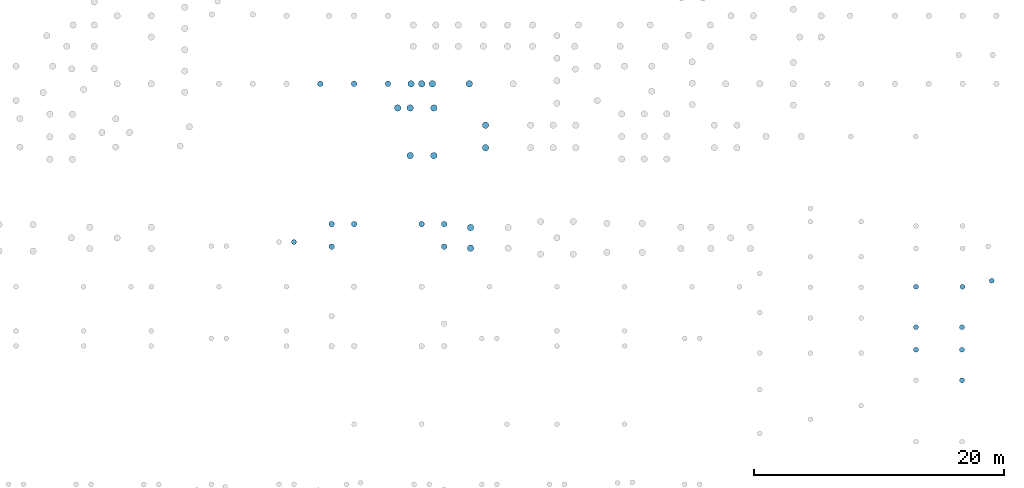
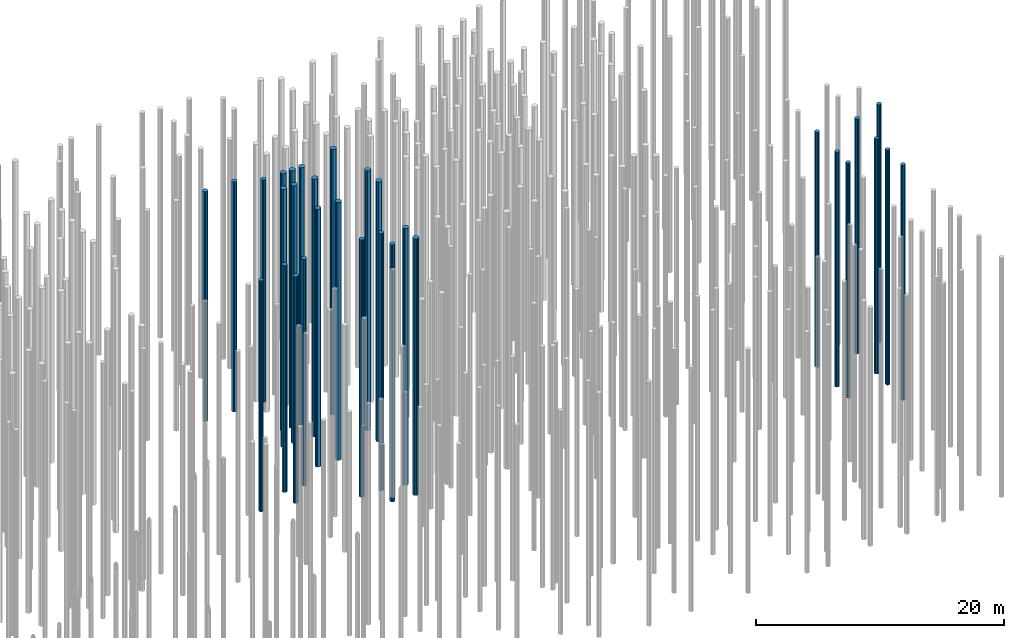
# One storey, part 14 of 20: 31 piles.
"""IFC2X3 building model written with IfcOpenShell, lengths in millimetres."""

from ifc_helpers import new_model, entity, si_unit, converted_unit, derived_unit, direction, frame, origin, place, context, subcontext, project, spatial, polyline, outline, extrude, material, element, save


model = new_model("IFC2X3")

# Units and contexts
model_context = context("Model", 3, precision=0.01, world=origin(), true_north=direction((6.12303176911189e-17, 1.0)))
body_context = subcontext(model_context, "Body", "Model", "MODEL_VIEW")
ifc_project = project(units=[si_unit("LENGTHUNIT", "METRE", prefix="MILLI"), si_unit("AREAUNIT", "SQUARE_METRE"), si_unit("VOLUMEUNIT", "CUBIC_METRE"), converted_unit("PLANEANGLEUNIT", "DEGREE", entity("IfcRatioMeasure", 0.0174532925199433), si_unit("PLANEANGLEUNIT", "RADIAN"), dimensions=[0, 0, 0, 0, 0, 0, 0]), si_unit("MASSUNIT", "GRAM", prefix="KILO"), derived_unit("MASSDENSITYUNIT", [(si_unit("MASSUNIT", "GRAM", prefix="KILO"), 1), (si_unit("LENGTHUNIT", "METRE"), -3)]), si_unit("TIMEUNIT", "SECOND"), si_unit("FREQUENCYUNIT", "HERTZ"), si_unit("THERMODYNAMICTEMPERATUREUNIT", "DEGREE_CELSIUS"), derived_unit("THERMALTRANSMITTANCEUNIT", [(si_unit("MASSUNIT", "GRAM", prefix="KILO"), 1), (si_unit("THERMODYNAMICTEMPERATUREUNIT", "KELVIN"), -1), (si_unit("TIMEUNIT", "SECOND"), -3)]), derived_unit("VOLUMETRICFLOWRATEUNIT", [(si_unit("LENGTHUNIT", "METRE"), 3), (si_unit("TIMEUNIT", "SECOND"), -1)]), si_unit("ELECTRICCURRENTUNIT", "AMPERE"), si_unit("ELECTRICVOLTAGEUNIT", "VOLT"), si_unit("POWERUNIT", "WATT"), si_unit("FORCEUNIT", "NEWTON", prefix="KILO"), si_unit("ILLUMINANCEUNIT", "LUX"), si_unit("LUMINOUSFLUXUNIT", "LUMEN"), si_unit("LUMINOUSINTENSITYUNIT", "CANDELA"), derived_unit("USERDEFINED", [(si_unit("MASSUNIT", "GRAM", prefix="KILO"), -1), (si_unit("LENGTHUNIT", "METRE"), -2), (si_unit("TIMEUNIT", "SECOND"), 3), (si_unit("LUMINOUSFLUXUNIT", "LUMEN"), 1)]), derived_unit("LINEARVELOCITYUNIT", [(si_unit("LENGTHUNIT", "METRE"), 1), (si_unit("TIMEUNIT", "SECOND"), -1)]), si_unit("PRESSUREUNIT", "PASCAL"), derived_unit("USERDEFINED", [(si_unit("LENGTHUNIT", "METRE"), -2), (si_unit("MASSUNIT", "GRAM", prefix="KILO"), 1), (si_unit("TIMEUNIT", "SECOND"), -2)])], contexts=[model_context])

# Site, building, storey
site_placement = place(None, origin())
site = spatial("IfcSite", under=ifc_project, at=site_placement, Name="Default", CompositionType="ELEMENT")
building_placement = place(site_placement, origin())
building = spatial("IfcBuilding", under=site, at=building_placement, Name="niet gebruiken", CompositionType="ELEMENT")
storey_placement = place(building_placement, frame((0.0, 0.0, -4000.0)))
storey = spatial("IfcBuildingStorey", under=building, at=storey_placement, Name="Level t.b.v. palenplan", CompositionType="ELEMENT", Elevation=-4000.0)

# Piles
ifc_material = material(Name="NLRS_f2_beton ihwg")
pile_1_placement = place(storey_placement, origin())
element("IfcPile", 1, at=pile_1_placement, inside=storey, material=ifc_material, Name="NLRS_17.12_SFO_TLB_funderingspaal grondverdringend_gen:Fundex_r460/560", ObjectType="NLRS_17.12_SFO_TLB_funderingspaal grondverdringend_gen:Fundex_r460/560", context=body_context, shape_type="SweptSolid", body=[
    extrude(outline(polyline([(-25.7518295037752, -228.553808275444), (25.7518295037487, -228.553808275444), (122.367377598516, -194.746565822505), (194.746565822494, -122.367377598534), (228.55380827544, -25.7518295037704), (217.093165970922, 75.9641842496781), (162.634559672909, 162.634559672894), (75.9641842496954, 217.093165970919), (25.7518295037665, 228.553808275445), (-25.751829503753, 228.553808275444), (-122.367377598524, 194.746565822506), (-194.746565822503, 122.367377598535), (-228.553808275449, 25.7518295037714), (-217.093165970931, -75.9641842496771), (-162.634559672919, -162.634559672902), (-75.964184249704, -217.093165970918), (-25.7518295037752, -228.553808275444)])), frame((70205.0, 29981.0, -20100.0), z_axis=(0.0, 0.0, 1.0), x_axis=(0.111964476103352, -0.993712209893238, 0.0)), (0.0, 0.0, 1.0), 22320.0),
])
pile_2_placement = place(storey_placement, origin())
element("IfcPile", 2, at=pile_2_placement, inside=storey, material=ifc_material, Name="NLRS_17.12_SFO_TLB_funderingspaal grondverdringend_gen:Fundex_r460/560", ObjectType="NLRS_17.12_SFO_TLB_funderingspaal grondverdringend_gen:Fundex_r460/560", context=body_context, shape_type="SweptSolid", body=[
    extrude(outline(polyline([(-25.7518295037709, -228.553808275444), (25.751829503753, -228.553808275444), (122.36737759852, -194.746565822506), (194.746565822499, -122.367377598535), (228.553808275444, -25.7518295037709), (217.093165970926, 75.9641842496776), (162.634559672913, 162.634559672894), (75.9641842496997, 217.093165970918), (25.7518295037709, 228.553808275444), (-25.7518295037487, 228.553808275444), (-122.36737759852, 194.746565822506), (-194.746565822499, 122.367377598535), (-228.553808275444, 25.7518295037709), (-217.093165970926, -75.9641842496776), (-162.634559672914, -162.634559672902), (-75.9641842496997, -217.093165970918), (-25.7518295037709, -228.553808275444)])), frame((68405.0, 28181.0, -20100.0), z_axis=(0.0, 0.0, 1.0), x_axis=(0.111964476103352, -0.993712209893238, 0.0)), (0.0, 0.0, 1.0), 22320.0),
])
pile_3_placement = place(storey_placement, origin())
element("IfcPile", 3, at=pile_3_placement, inside=storey, material=ifc_material, Name="NLRS_17.12_SFO_TLB_funderingspaal grondverdringend_gen:Fundex_r530/650", ObjectType="NLRS_17.12_SFO_TLB_funderingspaal grondverdringend_gen:Fundex_r530/650", context=body_context, shape_type="SweptSolid", body=[
    extrude(outline(polyline([(-55.0965980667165, -259.209114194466), (55.0965980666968, -259.209114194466), (155.763091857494, -214.389503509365), (229.496732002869, -132.500000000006), (263.548302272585, -27.7000427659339), (252.029976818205, 81.8895035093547), (196.9333787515, 177.31961068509), (107.78521041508, 242.089546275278), (55.0965980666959, 259.209114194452), (-55.0965980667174, 259.209114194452), (-155.763091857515, 214.389503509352), (-229.49673200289, 132.499999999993), (-263.548302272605, 27.7000427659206), (-252.029976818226, -81.889503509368), (-196.933378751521, -177.319610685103), (-107.785210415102, -242.089546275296), (-55.0965980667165, -259.209114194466)])), frame((74675.0, 35456.0, -23100.0), z_axis=(0.0, 0.0, 1.0), x_axis=(-0.978147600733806, -0.207911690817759, 0.0)), (0.0, 0.0, 1.0), 25368.0),
])
pile_4_placement = place(storey_placement, origin())
element("IfcPile", 4, at=pile_4_placement, inside=storey, material=ifc_material, Name="NLRS_17.12_SFO_TLB_funderingspaal grondverdringend_gen:Fundex_r530/650", ObjectType="NLRS_17.12_SFO_TLB_funderingspaal grondverdringend_gen:Fundex_r530/650", context=body_context, shape_type="SweptSolid", body=[
    extrude(outline(polyline([(-55.0965980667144, -259.209114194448), (55.0965980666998, -259.209114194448), (155.763091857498, -214.389503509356), (229.496732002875, -132.500000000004), (263.548302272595, -27.7000427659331), (252.02997681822, 81.889503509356), (196.933378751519, 177.319610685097), (107.785210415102, 242.089546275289), (55.096598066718, 259.209114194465), (-55.0965980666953, 259.209114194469), (-155.763091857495, 214.389503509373), (-229.496732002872, 132.500000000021), (-263.548302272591, 27.70004276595), (-252.029976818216, -81.8895035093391), (-196.933378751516, -177.31961068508), (-107.785210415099, -242.089546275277), (-55.0965980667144, -259.209114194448)])), frame((76575.0, 39256.0, -23100.0), z_axis=(0.0, 0.0, 1.0), x_axis=(-0.978147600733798, -0.207911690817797, 0.0)), (0.0, 0.0, 1.0), 25368.0),
])
pile_5_placement = place(storey_placement, origin())
element("IfcPile", 5, at=pile_5_placement, inside=storey, material=ifc_material, Name="NLRS_17.12_SFO_TLB_funderingspaal grondverdringend_gen:Fundex_r530/650", ObjectType="NLRS_17.12_SFO_TLB_funderingspaal grondverdringend_gen:Fundex_r530/650", context=body_context, shape_type="SweptSolid", body=[
    extrude(outline(polyline([(-55.0965980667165, -259.209114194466), (55.0965980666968, -259.209114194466), (155.763091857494, -214.389503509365), (229.496732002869, -132.500000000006), (263.548302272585, -27.7000427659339), (252.029976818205, 81.8895035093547), (196.9333787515, 177.31961068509), (107.78521041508, 242.089546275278), (55.0965980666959, 259.209114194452), (-55.0965980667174, 259.209114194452), (-155.763091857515, 214.389503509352), (-229.49673200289, 132.499999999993), (-263.548302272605, 27.7000427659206), (-252.029976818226, -81.889503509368), (-196.933378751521, -177.319610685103), (-107.785210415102, -242.089546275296), (-55.0965980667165, -259.209114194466)])), frame((76575.0, 35456.0, -23100.0), z_axis=(0.0, 0.0, 1.0), x_axis=(-0.978147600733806, -0.207911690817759, 0.0)), (0.0, 0.0, 1.0), 25368.0),
])
pile_6_placement = place(storey_placement, origin())
element("IfcPile", 6, at=pile_6_placement, inside=storey, material=ifc_material, Name="NLRS_17.12_SFO_TLB_funderingspaal grondverdringend_gen:Fundex_r530/650", ObjectType="NLRS_17.12_SFO_TLB_funderingspaal grondverdringend_gen:Fundex_r530/650", context=body_context, shape_type="SweptSolid", body=[
    extrude(outline(polyline([(-55.0965980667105, -259.209114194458), (55.0965980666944, -259.209114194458), (155.763091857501, -214.389503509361), (229.496732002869, -132.500000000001), (263.548302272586, -27.7000427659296), (252.029976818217, 81.8895035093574), (196.933378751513, 177.319610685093), (107.785210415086, 242.089546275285), (55.0965980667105, 259.209114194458), (-55.0965980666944, 259.209114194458), (-155.763091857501, 214.389503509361), (-229.496732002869, 132.500000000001), (-263.548302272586, 27.7000427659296), (-252.029976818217, -81.8895035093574), (-196.933378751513, -177.319610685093), (-107.785210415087, -242.089546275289), (-55.0965980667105, -259.209114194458)])), frame((80700.0, 37881.0, -23100.0), z_axis=(0.0, 0.0, 1.0), x_axis=(-0.978147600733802, -0.207911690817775, 0.0)), (0.0, 0.0, 1.0), 25570.0),
])
pile_7_placement = place(storey_placement, origin())
element("IfcPile", 7, at=pile_7_placement, inside=storey, material=ifc_material, Name="NLRS_17.12_SFO_TLB_funderingspaal grondverdringend_gen:Fundex_r530/650", ObjectType="NLRS_17.12_SFO_TLB_funderingspaal grondverdringend_gen:Fundex_r530/650", context=body_context, shape_type="SweptSolid", body=[
    extrude(outline(polyline([(-55.0965980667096, -259.209114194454), (55.0965980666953, -259.209114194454), (155.763091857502, -214.389503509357), (229.49673200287, -132.499999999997), (263.548302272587, -27.7000427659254), (252.029976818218, 81.8895035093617), (196.933378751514, 177.319610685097), (107.785210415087, 242.089546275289), (55.0965980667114, 259.209114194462), (-55.0965980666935, 259.209114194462), (-155.7630918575, 214.389503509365), (-229.496732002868, 132.500000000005), (-263.548302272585, 27.7000427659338), (-252.029976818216, -81.8895035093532), (-196.933378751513, -177.319610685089), (-107.785210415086, -242.089546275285), (-55.0965980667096, -259.209114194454)])), frame((80700.0, 36081.0, -23100.0), z_axis=(0.0, 0.0, 1.0), x_axis=(-0.978147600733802, -0.207911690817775, 0.0)), (0.0, 0.0, 1.0), 25570.0),
])
pile_8_placement = place(storey_placement, origin())
element("IfcPile", 8, at=pile_8_placement, inside=storey, material=ifc_material, Name="NLRS_17.12_SFO_TLB_funderingspaal grondverdringend_gen:Fundex_r530/650", ObjectType="NLRS_17.12_SFO_TLB_funderingspaal grondverdringend_gen:Fundex_r530/650", context=body_context, shape_type="SweptSolid", body=[
    extrude(outline(polyline([(-55.0965980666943, -259.209114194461), (55.0965980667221, -259.209114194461), (155.763091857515, -214.389503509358), (229.496732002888, -132.499999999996), (263.548302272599, -27.700042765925), (252.029976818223, 81.8895035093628), (196.93337875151, 177.319610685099), (107.78521041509, 242.089546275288), (55.0965980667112, 259.209114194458), (-55.0965980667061, 259.209114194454), (-155.763091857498, 214.389503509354), (-229.496732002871, 132.499999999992), (-263.548302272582, 27.7000427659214), (-252.029976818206, -81.8895035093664), (-196.933378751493, -177.319610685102), (-107.785210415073, -242.089546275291), (-55.0965980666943, -259.209114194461)])), frame((74675.0, 39256.0, -23100.0), z_axis=(0.0, 0.0, 1.0), x_axis=(-0.978147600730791, -0.207911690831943, 0.0)), (0.0, 0.0, 1.0), 25368.0),
])
pile_9_placement = place(storey_placement, origin())
element("IfcPile", 9, at=pile_9_placement, inside=storey, material=ifc_material, Name="NLRS_17.12_SFO_TLB_funderingspaal grondverdringend_gen:Fundex_r530/650", ObjectType="NLRS_17.12_SFO_TLB_funderingspaal grondverdringend_gen:Fundex_r530/650", context=body_context, shape_type="SweptSolid", body=[
    extrude(outline(polyline([(-55.0965980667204, -259.209114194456), (55.0965980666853, -259.209114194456), (155.763091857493, -214.389503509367), (229.496732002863, -132.500000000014), (263.548302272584, -27.7000427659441), (252.029976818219, 81.8895035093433), (196.93337875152, 177.319610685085), (107.785210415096, 242.089546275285), (55.0965980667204, 259.209114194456), (-55.0965980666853, 259.209114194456), (-155.763091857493, 214.389503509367), (-229.496732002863, 132.500000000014), (-263.548302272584, 27.7000427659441), (-252.029976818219, -81.8895035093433), (-196.93337875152, -177.319610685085), (-107.785210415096, -242.089546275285), (-55.0965980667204, -259.209114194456)])), frame((79400.0, 41186.0, -23100.0), z_axis=(0.0, 0.0, 1.0), x_axis=(-0.978147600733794, -0.207911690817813, 0.0)), (0.0, 0.0, 1.0), 26118.0),
])
pile_10_placement = place(storey_placement, origin())
element("IfcPile", 10, at=pile_10_placement, inside=storey, material=ifc_material, Name="NLRS_17.12_SFO_TLB_funderingspaal grondverdringend_gen:Fundex_r530/650", ObjectType="NLRS_17.12_SFO_TLB_funderingspaal grondverdringend_gen:Fundex_r530/650", context=body_context, shape_type="SweptSolid", body=[
    extrude(outline(polyline([(-55.0965980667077, -259.209114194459), (55.0965980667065, -259.209114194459), (155.763091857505, -214.389503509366), (229.496732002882, -132.500000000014), (263.548302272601, -27.7000427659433), (252.029976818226, 81.8895035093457), (196.933378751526, 177.319610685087), (107.785210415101, 242.089546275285), (55.0965980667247, 259.209114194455), (-55.0965980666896, 259.209114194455), (-155.763091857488, 214.389503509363), (-229.496732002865, 132.50000000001), (-263.548302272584, 27.7000427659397), (-252.02997681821, -81.8895035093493), (-196.933378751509, -177.31961068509), (-107.785210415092, -242.089546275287), (-55.0965980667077, -259.209114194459)])), frame((75600.0, 41186.0, -23100.0), z_axis=(0.0, 0.0, 1.0), x_axis=(-0.978147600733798, -0.207911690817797, 0.0)), (0.0, 0.0, 1.0), 25368.0),
])
pile_11_placement = place(storey_placement, origin())
element("IfcPile", 11, at=pile_11_placement, inside=storey, material=ifc_material, Name="NLRS_17.12_SFO_TLB_funderingspaal grondverdringend_gen:Fundex_r460/560", ObjectType="NLRS_17.12_SFO_TLB_funderingspaal grondverdringend_gen:Fundex_r460/560", context=body_context, shape_type="SweptSolid", body=[
    extrude(outline(polyline([(-25.7518295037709, -228.553808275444), (25.751829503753, -228.553808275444), (122.367377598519, -194.746565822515), (194.746565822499, -122.367377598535), (228.553808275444, -25.751829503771), (217.093165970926, 75.9641842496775), (162.634559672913, 162.634559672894), (75.9641842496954, 217.093165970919), (25.7518295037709, 228.553808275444), (-25.7518295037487, 228.553808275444), (-122.36737759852, 194.746565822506), (-194.746565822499, 122.367377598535), (-228.553808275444, 25.751829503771), (-217.093165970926, -75.9641842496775), (-162.634559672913, -162.634559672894), (-75.9641842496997, -217.093165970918), (-25.7518295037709, -228.553808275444)])), frame((75595.0, 29981.0, -23100.0), z_axis=(0.0, 0.0, 1.0), x_axis=(0.111964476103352, -0.993712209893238, 0.0)), (0.0, 0.0, 1.0), 25320.0),
])
pile_12_placement = place(storey_placement, origin())
element("IfcPile", 12, at=pile_12_placement, inside=storey, material=ifc_material, Name="NLRS_17.12_SFO_TLB_funderingspaal grondverdringend_gen:Fundex_r530/650", ObjectType="NLRS_17.12_SFO_TLB_funderingspaal grondverdringend_gen:Fundex_r530/650", context=body_context, shape_type="SweptSolid", body=[
    extrude(outline(polyline([(-55.0965980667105, -259.209114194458), (55.0965980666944, -259.209114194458), (155.763091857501, -214.389503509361), (229.496732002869, -132.500000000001), (263.548302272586, -27.7000427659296), (252.029976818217, 81.8895035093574), (196.933378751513, 177.319610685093), (107.785210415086, 242.089546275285), (55.0965980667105, 259.209114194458), (-55.0965980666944, 259.209114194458), (-155.763091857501, 214.389503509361), (-229.496732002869, 132.500000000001), (-263.548302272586, 27.7000427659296), (-252.029976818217, -81.8895035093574), (-196.933378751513, -177.319610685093), (-107.785210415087, -242.089546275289), (-55.0965980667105, -259.209114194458)])), frame((79500.0, 29706.0, -23100.0), z_axis=(0.0, 0.0, 1.0), x_axis=(-0.978147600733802, -0.207911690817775, 0.0)), (0.0, 0.0, 1.0), 25270.0),
])
pile_13_placement = place(storey_placement, origin())
element("IfcPile", 13, at=pile_13_placement, inside=storey, material=ifc_material, Name="NLRS_17.12_SFO_TLB_funderingspaal grondverdringend_gen:Fundex_r530/650", ObjectType="NLRS_17.12_SFO_TLB_funderingspaal grondverdringend_gen:Fundex_r530/650", context=body_context, shape_type="SweptSolid", body=[
    extrude(outline(polyline([(-55.0965980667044, -259.209114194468), (55.0965980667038, -259.209114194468), (155.763091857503, -214.38950350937), (229.49673200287, -132.500000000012), (263.548302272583, -27.7000427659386), (252.029976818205, 81.8895035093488), (196.933378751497, 177.319610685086), (107.785210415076, 242.089546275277), (55.096598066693, 259.209114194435), (-55.0965980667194, 259.209114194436), (-155.763091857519, 214.389503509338), (-229.496732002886, 132.49999999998), (-263.548302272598, 27.7000427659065), (-252.02997681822, -81.8895035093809), (-196.933378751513, -177.319610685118), (-107.785210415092, -242.089546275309), (-55.0965980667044, -259.209114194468)])), frame((79500.0, 28056.0, -23100.0), z_axis=(0.0, 0.0, 1.0), x_axis=(0.207911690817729, -0.978147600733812, 0.0)), (0.0, 0.0, 1.0), 25270.0),
])
pile_14_placement = place(storey_placement, origin())
element("IfcPile", 14, at=pile_14_placement, inside=storey, material=ifc_material, Name="NLRS_17.12_SFO_TLB_funderingspaal grondverdringend_gen:Fundex_r460/560", ObjectType="NLRS_17.12_SFO_TLB_funderingspaal grondverdringend_gen:Fundex_r460/560", context=body_context, shape_type="SweptSolid", body=[
    extrude(outline(polyline([(-25.7518295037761, -228.553808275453), (25.7518295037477, -228.553808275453), (122.367377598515, -194.746565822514), (194.746565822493, -122.367377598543), (228.553808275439, -25.751829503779), (217.093165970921, 75.9641842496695), (162.634559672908, 162.634559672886), (75.9641842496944, 217.09316597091), (25.7518295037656, 228.553808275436), (-25.751829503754, 228.553808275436), (-122.367377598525, 194.746565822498), (-194.746565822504, 122.367377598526), (-228.55380827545, 25.7518295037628), (-217.093165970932, -75.9641842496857), (-162.63455967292, -162.63455967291), (-75.9641842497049, -217.093165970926), (-25.7518295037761, -228.553808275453)])), frame((77395.0, 29981.0, -23100.0), z_axis=(0.0, 0.0, 1.0), x_axis=(0.111964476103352, -0.993712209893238, 0.0)), (0.0, 0.0, 1.0), 25320.0),
])
pile_15_placement = place(storey_placement, origin())
element("IfcPile", 15, at=pile_15_placement, inside=storey, material=ifc_material, Name="NLRS_17.12_SFO_TLB_funderingspaal grondverdringend_gen:Fundex_r460/560", ObjectType="NLRS_17.12_SFO_TLB_funderingspaal grondverdringend_gen:Fundex_r460/560", context=body_context, shape_type="SweptSolid", body=[
    extrude(outline(polyline([(-25.751829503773, -228.553808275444), (25.7518295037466, -228.553808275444), (122.367377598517, -194.746565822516), (194.746565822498, -122.367377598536), (228.553808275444, -25.751829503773), (217.093165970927, 75.9641842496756), (162.634559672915, 162.634559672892), (75.9641842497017, 217.093165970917), (25.751829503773, 228.553808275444), (-25.7518295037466, 228.553808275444), (-122.367377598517, 194.746565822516), (-194.746565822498, 122.367377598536), (-228.553808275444, 25.751829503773), (-217.093165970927, -75.9641842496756), (-162.634559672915, -162.634559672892), (-75.9641842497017, -217.093165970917), (-25.751829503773, -228.553808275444)])), frame((77395.0, 28181.0, -23100.0), z_axis=(0.0, 0.0, 1.0), x_axis=(0.111964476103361, -0.993712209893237, 0.0)), (0.0, 0.0, 1.0), 25320.0),
])
pile_16_placement = place(storey_placement, origin())
element("IfcPile", 16, at=pile_16_placement, inside=storey, material=ifc_material, Name="NLRS_17.12_SFO_TLB_funderingspaal grondverdringend_gen:Fundex_r410/500", ObjectType="NLRS_17.12_SFO_TLB_funderingspaal grondverdringend_gen:Fundex_r410/500", context=body_context, shape_type="SweptSolid", body=[
    extrude(outline(polyline([(-49.0597111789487, -199.04307257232), (49.0597111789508, -199.04307257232), (135.940144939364, -153.44470337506), (191.678329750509, -72.6940018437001), (203.5053191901, 24.7100194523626), (168.711692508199, 116.453273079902), (95.2682502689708, 181.518485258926), (49.0597111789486, 199.043072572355), (-49.059711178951, 199.043072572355), (-135.940144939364, 153.444703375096), (-191.678329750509, 72.6940018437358), (-203.5053191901, -24.7100194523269), (-168.711692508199, -116.453273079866), (-95.2682502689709, -181.51848525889), (-49.0597111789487, -199.04307257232)])), frame((65400.0, 28551.0, -20100.0), z_axis=(0.0, 0.0, 1.0), x_axis=(0.239315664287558, -0.970941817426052, 0.0)), (0.0, 0.0, 1.0), 22720.0),
])
pile_17_placement = place(storey_placement, origin())
element("IfcPile", 17, at=pile_17_placement, inside=storey, material=ifc_material, Name="NLRS_17.12_SFO_TLB_funderingspaal grondverdringend_gen:Fundex_r410/500", ObjectType="NLRS_17.12_SFO_TLB_funderingspaal grondverdringend_gen:Fundex_r410/500", context=body_context, shape_type="SweptSolid", body=[
    extrude(outline(polyline([(-49.0597111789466, -199.043072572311), (49.0597111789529, -199.043072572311), (135.94014493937, -153.444703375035), (191.678329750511, -72.6940018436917), (203.505319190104, 24.7100194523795), (168.711692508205, 116.453273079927), (95.268250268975, 181.518485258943), (49.0597111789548, 199.043072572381), (-49.0597111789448, 199.043072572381), (-135.940144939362, 153.444703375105), (-191.678329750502, 72.6940018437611), (-203.505319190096, -24.7100194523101), (-168.711692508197, -116.453273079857), (-95.2682502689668, -181.518485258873), (-49.0597111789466, -199.043072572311)])), frame((115075.0, 24976.0, -21100.0), z_axis=(0.0, 0.0, 1.0), x_axis=(0.239315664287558, -0.970941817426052, 0.0)), (0.0, 0.0, 1.0), 23120.0),
])
pile_18_placement = place(storey_placement, origin())
element("IfcPile", 18, at=pile_18_placement, inside=storey, material=ifc_material, Name="NLRS_17.12_SFO_TLB_funderingspaal grondverdringend_gen:Fundex_r410/500", ObjectType="NLRS_17.12_SFO_TLB_funderingspaal grondverdringend_gen:Fundex_r410/500", context=body_context, shape_type="SweptSolid", body=[
    extrude(outline(polyline([(-49.0597111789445, -199.04307257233), (49.0597111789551, -199.04307257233), (135.94014493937, -153.444703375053), (191.678329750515, -72.6940018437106), (203.505319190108, 24.7100194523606), (168.711692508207, 116.453273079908), (95.2682502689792, 181.518485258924), (49.059711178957, 199.043072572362), (-49.0597111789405, 199.043072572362), (-135.940144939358, 153.444703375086), (-191.6783297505, 72.6940018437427), (-203.505319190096, -24.710019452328), (-168.711692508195, -116.453273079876), (-95.2682502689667, -181.518485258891), (-49.0597111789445, -199.04307257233)])), frame((118750.0, 17500.0, -21100.0), z_axis=(0.0, 0.0, 1.0), x_axis=(0.239315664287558, -0.970941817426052, 0.0)), (0.0, 0.0, 1.0), 23120.0),
])
pile_19_placement = place(storey_placement, origin())
element("IfcPile", 19, at=pile_19_placement, inside=storey, material=ifc_material, Name="NLRS_17.12_SFO_TLB_funderingspaal grondverdringend_gen:Fundex_r410/500", ObjectType="NLRS_17.12_SFO_TLB_funderingspaal grondverdringend_gen:Fundex_r410/500", context=body_context, shape_type="SweptSolid", body=[
    extrude(outline(polyline([(-49.0597111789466, -199.043072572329), (49.059711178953, -199.043072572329), (135.94014493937, -153.444703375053), (191.678329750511, -72.6940018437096), (203.505319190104, 24.7100194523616), (168.711692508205, 116.453273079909), (95.2682502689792, 181.518485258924), (49.0597111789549, 199.043072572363), (-49.0597111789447, 199.043072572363), (-135.940144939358, 153.444703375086), (-191.678329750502, 72.6940018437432), (-203.505319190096, -24.710019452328), (-168.711692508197, -116.453273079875), (-95.2682502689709, -181.51848525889), (-49.0597111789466, -199.043072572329)])), frame((115075.0, 19946.0, -21100.0), z_axis=(0.0, 0.0, 1.0), x_axis=(0.239315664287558, -0.970941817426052, 0.0)), (0.0, 0.0, 1.0), 23120.0),
])
pile_20_placement = place(storey_placement, origin())
element("IfcPile", 20, at=pile_20_placement, inside=storey, material=ifc_material, Name="NLRS_17.12_SFO_TLB_funderingspaal grondverdringend_gen:Fundex_r410/500", ObjectType="NLRS_17.12_SFO_TLB_funderingspaal grondverdringend_gen:Fundex_r410/500", context=body_context, shape_type="SweptSolid", body=[
    extrude(outline(polyline([(-49.0597111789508, -199.043072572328), (49.0597111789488, -199.043072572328), (135.940144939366, -153.444703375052), (191.678329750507, -72.6940018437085), (203.5053191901, 24.7100194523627), (168.711692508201, 116.45327307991), (95.268250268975, 181.518485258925), (49.0597111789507, 199.043072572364), (-49.0597111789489, 199.043072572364), (-135.940144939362, 153.444703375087), (-191.678329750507, 72.6940018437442), (-203.5053191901, -24.7100194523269), (-168.711692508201, -116.453273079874), (-95.2682502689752, -181.518485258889), (-49.0597111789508, -199.043072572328)])), frame((118750.0, 19946.0, -21100.0), z_axis=(0.0, 0.0, 1.0), x_axis=(0.239315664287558, -0.970941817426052, 0.0)), (0.0, 0.0, 1.0), 23120.0),
])
pile_21_placement = place(storey_placement, origin())
element("IfcPile", 21, at=pile_21_placement, inside=storey, material=ifc_material, Name="NLRS_17.12_SFO_TLB_funderingspaal grondverdringend_gen:Fundex_r410/500", ObjectType="NLRS_17.12_SFO_TLB_funderingspaal grondverdringend_gen:Fundex_r410/500", context=body_context, shape_type="SweptSolid", body=[
    extrude(outline(polyline([(-49.0597111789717, -199.043072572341), (49.0597111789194, -199.043072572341), (135.940144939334, -153.444703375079), (191.678329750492, -72.6940018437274), (203.505319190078, 24.7100194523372), (168.71169250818, 116.453273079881), (95.2682502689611, 181.518485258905), (49.059711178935, 199.043072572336), (-49.0597111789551, 199.043072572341), (-135.94014493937, 153.444703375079), (-191.678329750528, 72.6940018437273), (-203.505319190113, -24.7100194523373), (-168.711692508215, -116.453273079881), (-95.2682502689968, -181.518485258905), (-49.0597111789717, -199.043072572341)])), frame((115075.0, 21746.0, -21100.0), z_axis=(0.0, 0.0, 1.0), x_axis=(-0.970941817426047, -0.239315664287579, 0.0)), (0.0, 0.0, 1.0), 23120.0),
])
pile_22_placement = place(storey_placement, origin())
element("IfcPile", 22, at=pile_22_placement, inside=storey, material=ifc_material, Name="NLRS_17.12_SFO_TLB_funderingspaal grondverdringend_gen:Fundex_r410/500", ObjectType="NLRS_17.12_SFO_TLB_funderingspaal grondverdringend_gen:Fundex_r410/500", context=body_context, shape_type="SweptSolid", body=[
    extrude(outline(polyline([(-49.0597111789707, -199.043072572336), (49.0597111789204, -199.043072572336), (135.940144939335, -153.444703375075), (191.678329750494, -72.6940018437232), (203.505319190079, 24.7100194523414), (168.711692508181, 116.453273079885), (95.2682502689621, 181.518485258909), (49.059711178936, 199.043072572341), (-49.0597111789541, 199.043072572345), (-135.940144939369, 153.444703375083), (-191.678329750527, 72.6940018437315), (-203.505319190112, -24.7100194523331), (-168.711692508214, -116.453273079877), (-95.2682502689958, -181.518485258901), (-49.0597111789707, -199.043072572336)])), frame((118750.0, 21746.0, -21100.0), z_axis=(0.0, 0.0, 1.0), x_axis=(-0.970941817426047, -0.239315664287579, 0.0)), (0.0, 0.0, 1.0), 23120.0),
])
pile_23_placement = place(storey_placement, origin())
element("IfcPile", 23, at=pile_23_placement, inside=storey, material=ifc_material, Name="NLRS_17.12_SFO_TLB_funderingspaal grondverdringend_gen:Fundex_r410/500", ObjectType="NLRS_17.12_SFO_TLB_funderingspaal grondverdringend_gen:Fundex_r410/500", context=body_context, shape_type="SweptSolid", body=[
    extrude(outline(polyline([(-49.0597111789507, -199.043072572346), (49.0597111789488, -199.043072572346), (135.940144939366, -153.44470337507), (191.678329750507, -72.6940018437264), (203.5053191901, 24.7100194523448), (168.711692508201, 116.453273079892), (95.2682502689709, 181.518485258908), (49.0597111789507, 199.043072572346), (-49.0597111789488, 199.043072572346), (-135.940144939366, 153.44470337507), (-191.678329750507, 72.6940018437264), (-203.5053191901, -24.7100194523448), (-168.711692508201, -116.453273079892), (-95.2682502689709, -181.518485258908), (-49.0597111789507, -199.043072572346)])), frame((118800.0, 24976.0, -21100.0), z_axis=(0.0, 0.0, 1.0), x_axis=(0.239315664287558, -0.970941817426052, 0.0)), (0.0, 0.0, 1.0), 23120.0),
])
pile_24_placement = place(storey_placement, origin())
element("IfcPile", 24, at=pile_24_placement, inside=storey, material=ifc_material, Name="NLRS_17.12_SFO_TLB_funderingspaal grondverdringend_gen:Fundex_r410/500", ObjectType="NLRS_17.12_SFO_TLB_funderingspaal grondverdringend_gen:Fundex_r410/500", context=body_context, shape_type="SweptSolid", body=[
    extrude(outline(polyline([(-49.0597111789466, -199.043072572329), (49.059711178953, -199.043072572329), (135.94014493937, -153.444703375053), (191.678329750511, -72.6940018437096), (203.505319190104, 24.7100194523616), (168.711692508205, 116.453273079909), (95.268250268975, 181.518485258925), (49.0597111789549, 199.043072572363), (-49.0597111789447, 199.043072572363), (-135.940144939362, 153.444703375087), (-191.678329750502, 72.6940018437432), (-203.505319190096, -24.710019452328), (-168.711692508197, -116.453273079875), (-95.2682502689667, -181.518485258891), (-49.0597111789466, -199.043072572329)])), frame((121125.0, 25456.0, -21100.0), z_axis=(0.0, 0.0, 1.0), x_axis=(0.239315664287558, -0.970941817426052, 0.0)), (0.0, 0.0, 1.0), 23420.0),
])
pile_25_placement = place(storey_placement, origin())
element("IfcPile", 25, at=pile_25_placement, inside=storey, material=ifc_material, Name="NLRS_17.12_SFO_TLB_funderingspaal grondverdringend_gen:Fundex_r460/560", ObjectType="NLRS_17.12_SFO_TLB_funderingspaal grondverdringend_gen:Fundex_r460/560", context=body_context, shape_type="SweptSolid", body=[
    extrude(outline(polyline([(-25.7518295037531, -228.553808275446), (25.7518295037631, -228.553808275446), (122.367377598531, -194.746565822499), (194.746565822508, -122.367377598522), (228.553808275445, -25.7518295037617), (217.09316597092, 75.9641842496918), (162.634559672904, 162.634559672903), (75.9641842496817, 217.093165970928), (25.7518295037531, 228.553808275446), (-25.7518295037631, 228.553808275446), (-122.367377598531, 194.746565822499), (-194.746565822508, 122.367377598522), (-228.553808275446, 25.7518295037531), (-217.09316597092, -75.9641842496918), (-162.634559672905, -162.634559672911), (-75.9641842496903, -217.093165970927), (-25.7518295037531, -228.553808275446)])), frame((67500.0, 41186.0, -19600.0), z_axis=(0.0, 0.0, 1.0), x_axis=(0.111964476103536, -0.993712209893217, 0.0)), (0.0, 0.0, 1.0), 22618.0),
])
pile_26_placement = place(storey_placement, origin())
element("IfcPile", 26, at=pile_26_placement, inside=storey, material=ifc_material, Name="NLRS_17.12_SFO_TLB_funderingspaal grondverdringend_gen:Fundex_r460/560", ObjectType="NLRS_17.12_SFO_TLB_funderingspaal grondverdringend_gen:Fundex_r460/560", context=body_context, shape_type="SweptSolid", body=[
    extrude(outline(polyline([(-25.7518295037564, -228.553808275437), (25.7518295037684, -228.553808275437), (122.367377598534, -194.746565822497), (194.746565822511, -122.36737759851), (228.553808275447, -25.7518295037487), (217.09316597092, 75.9641842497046), (162.634559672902, 162.634559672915), (75.9641842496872, 217.093165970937), (25.7518295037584, 228.553808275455), (-25.7518295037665, 228.553808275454), (-122.367377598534, 194.746565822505), (-194.746565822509, 122.367377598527), (-228.553808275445, 25.7518295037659), (-217.093165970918, -75.9641842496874), (-162.6345596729, -162.634559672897), (-75.9641842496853, -217.09316597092), (-25.7518295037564, -228.553808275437)])), frame((70200.0, 41186.0, -19600.0), z_axis=(0.0, 0.0, 1.0), x_axis=(0.111964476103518, -0.993712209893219, 0.0)), (0.0, 0.0, 1.0), 22618.0),
])
pile_27_placement = place(storey_placement, origin())
element("IfcPile", 27, at=pile_27_placement, inside=storey, material=ifc_material, Name="NLRS_17.12_SFO_TLB_funderingspaal grondverdringend_gen:Fundex_r460/560", ObjectType="NLRS_17.12_SFO_TLB_funderingspaal grondverdringend_gen:Fundex_r460/560", context=body_context, shape_type="SweptSolid", body=[
    extrude(outline(polyline([(-25.7518295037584, -228.553808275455), (25.7518295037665, -228.553808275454), (122.367377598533, -194.746565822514), (194.746565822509, -122.367377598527), (228.553808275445, -25.7518295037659), (217.093165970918, 75.9641842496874), (162.6345596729, 162.634559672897), (75.9641842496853, 217.09316597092), (25.7518295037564, 228.553808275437), (-25.7518295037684, 228.553808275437), (-122.367377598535, 194.746565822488), (-194.746565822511, 122.36737759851), (-228.553808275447, 25.7518295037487), (-217.09316597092, -75.9641842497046), (-162.634559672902, -162.634559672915), (-75.9641842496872, -217.093165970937), (-25.7518295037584, -228.553808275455)])), frame((72900.0, 41186.0, -19600.0), z_axis=(0.0, 0.0, 1.0), x_axis=(0.111964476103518, -0.993712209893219, 0.0)), (0.0, 0.0, 1.0), 21868.0),
])
pile_28_placement = place(storey_placement, origin())
element("IfcPile", 28, at=pile_28_placement, inside=storey, material=ifc_material, Name="NLRS_17.12_SFO_TLB_funderingspaal grondverdringend_gen:Fundex_r460/560", ObjectType="NLRS_17.12_SFO_TLB_funderingspaal grondverdringend_gen:Fundex_r460/560", context=body_context, shape_type="SweptSolid", body=[
    extrude(outline(polyline([(-25.7518295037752, -228.553808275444), (25.7518295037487, -228.553808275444), (122.367377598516, -194.746565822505), (194.746565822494, -122.367377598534), (228.55380827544, -25.7518295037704), (217.093165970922, 75.9641842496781), (162.634559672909, 162.634559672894), (75.9641842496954, 217.093165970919), (25.7518295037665, 228.553808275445), (-25.751829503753, 228.553808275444), (-122.367377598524, 194.746565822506), (-194.746565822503, 122.367377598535), (-228.553808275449, 25.7518295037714), (-217.093165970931, -75.9641842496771), (-162.634559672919, -162.634559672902), (-75.964184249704, -217.093165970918), (-25.7518295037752, -228.553808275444)])), frame((68405.0, 29981.0, -20100.0), z_axis=(0.0, 0.0, 1.0), x_axis=(0.111964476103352, -0.993712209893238, 0.0)), (0.0, 0.0, 1.0), 22320.0),
])
pile_29_placement = place(storey_placement, origin())
element("IfcPile", 29, at=pile_29_placement, inside=storey, material=ifc_material, Name="NLRS_17.12_SFO_TLB_funderingspaal grondverdringend_gen:Fundex_r530/650", ObjectType="NLRS_17.12_SFO_TLB_funderingspaal grondverdringend_gen:Fundex_r530/650", context=body_context, shape_type="SweptSolid", body=[
    extrude(outline(polyline([(-55.0965980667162, -259.209114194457), (55.096598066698, -259.209114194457), (155.763091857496, -214.389503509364), (229.496732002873, -132.500000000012), (263.548302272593, -27.7000427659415), (252.029976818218, 81.8895035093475), (196.933378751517, 177.319610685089), (107.785210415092, 242.089546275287), (55.0965980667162, 259.209114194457), (-55.096598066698, 259.209114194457), (-155.763091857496, 214.389503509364), (-229.496732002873, 132.500000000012), (-263.548302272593, 27.7000427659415), (-252.029976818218, -81.8895035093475), (-196.933378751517, -177.319610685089), (-107.785210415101, -242.089546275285), (-55.0965980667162, -259.209114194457)])), frame((74750.0, 41186.0, -23100.0), z_axis=(0.0, 0.0, 1.0), x_axis=(-0.978147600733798, -0.207911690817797, 0.0)), (0.0, 0.0, 1.0), 25368.0),
])
pile_30_placement = place(storey_placement, origin())
element("IfcPile", 30, at=pile_30_placement, inside=storey, material=ifc_material, Name="NLRS_17.12_SFO_TLB_funderingspaal grondverdringend_gen:Fundex_r530/650", ObjectType="NLRS_17.12_SFO_TLB_funderingspaal grondverdringend_gen:Fundex_r530/650", context=body_context, shape_type="SweptSolid", body=[
    extrude(outline(polyline([(-55.0965980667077, -259.209114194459), (55.0965980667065, -259.209114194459), (155.763091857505, -214.389503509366), (229.496732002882, -132.500000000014), (263.548302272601, -27.7000427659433), (252.029976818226, 81.8895035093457), (196.933378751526, 177.319610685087), (107.785210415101, 242.089546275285), (55.0965980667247, 259.209114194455), (-55.0965980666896, 259.209114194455), (-155.763091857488, 214.389503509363), (-229.496732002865, 132.50000000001), (-263.548302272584, 27.7000427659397), (-252.02997681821, -81.8895035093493), (-196.933378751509, -177.31961068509), (-107.785210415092, -242.089546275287), (-55.0965980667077, -259.209114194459)])), frame((76450.0, 41186.0, -23100.0), z_axis=(0.0, 0.0, 1.0), x_axis=(-0.978147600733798, -0.207911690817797, 0.0)), (0.0, 0.0, 1.0), 25368.0),
])
pile_31_placement = place(storey_placement, origin())
element("IfcPile", 31, at=pile_31_placement, inside=storey, material=ifc_material, Name="NLRS_17.12_SFO_TLB_funderingspaal grondverdringend_gen:Fundex_r530/650", ObjectType="NLRS_17.12_SFO_TLB_funderingspaal grondverdringend_gen:Fundex_r530/650", context=body_context, shape_type="SweptSolid", body=[
    extrude(outline(polyline([(-55.0965980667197, -259.209114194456), (55.0965980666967, -259.209114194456), (155.76309185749, -214.389503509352), (229.496732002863, -132.49999999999), (263.548302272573, -27.7000427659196), (252.029976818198, 81.8895035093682), (196.933378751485, 177.319610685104), (107.785210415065, 242.089546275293), (55.0965980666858, 259.209114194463), (-55.0965980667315, 259.209114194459), (-155.763091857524, 214.38950350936), (-229.496732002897, 132.499999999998), (-263.548302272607, 27.7000427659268), (-252.029976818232, -81.889503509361), (-196.933378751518, -177.319610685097), (-107.785210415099, -242.089546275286), (-55.0965980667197, -259.209114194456)])), frame((73675.0, 39256.0, -23100.0), z_axis=(0.0, 0.0, 1.0), x_axis=(-0.978147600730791, -0.207911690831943, 0.0)), (0.0, 0.0, 1.0), 25368.0),
])

save(model, "model.ifc")
